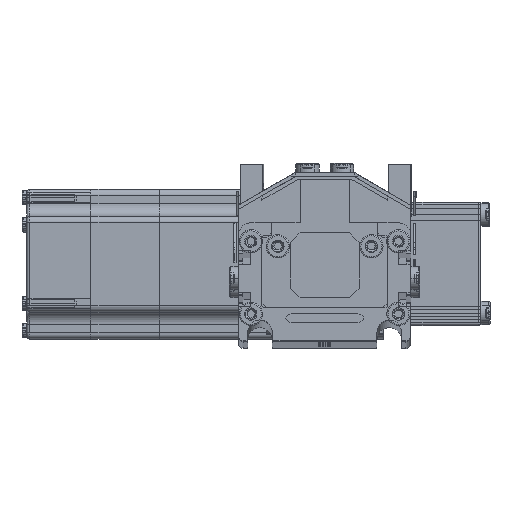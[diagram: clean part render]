
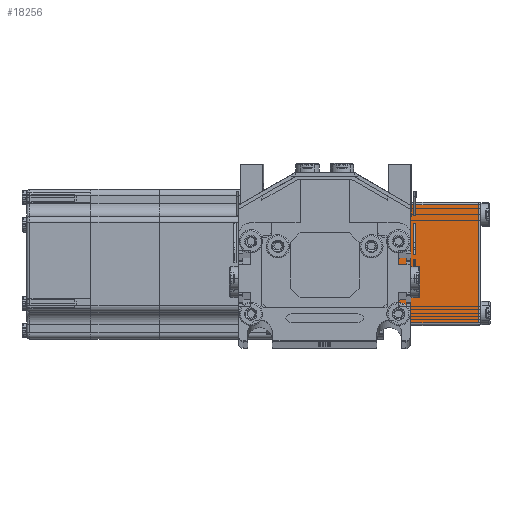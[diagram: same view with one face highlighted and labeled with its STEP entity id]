
A CAD part, top view. The second image highlights one B-rep face of the part: STEP entity #18256.
In plain terms, the highlighted planar face has unit normal (0, 0, 1) as drawn and (-1, 0, 0) by its records, which use the part's own axes.
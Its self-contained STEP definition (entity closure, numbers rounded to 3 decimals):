
#18194 = VERTEX_POINT ( 'NONE', #71690 ) ;
#18196 = EDGE_CURVE ( 'NONE', #18197, #18194, #71669, .T. ) ;
#18197 = VERTEX_POINT ( 'NONE', #71640 ) ;
#18254 = ORIENTED_EDGE ( 'NONE', *, *, #18257, .T. ) ;
#18256 = ADVANCED_FACE ( 'NONE', ( #135474 ), #135441, .F. ) ;
#18257 = EDGE_CURVE ( 'NONE', #18194, #18268, #135438, .T. ) ;
#18258 = ORIENTED_EDGE ( 'NONE', *, *, #18261, .T. ) ;
#18259 = EDGE_CURVE ( 'NONE', #18268, #18267, #135435, .T. ) ;
#18260 = ORIENTED_EDGE ( 'NONE', *, *, #18259, .T. ) ;
#18261 = EDGE_CURVE ( 'NONE', #18267, #18197, #135561, .T. ) ;
#18267 = VERTEX_POINT ( 'NONE', #135546 ) ;
#18268 = VERTEX_POINT ( 'NONE', #135524 ) ;
#18270 = ORIENTED_EDGE ( 'NONE', *, *, #18196, .T. ) ;
#18273 = EDGE_LOOP ( 'NONE', ( #18270, #18254, #18260, #18258 ) ) ;
#71631 = DIRECTION ( 'NONE',  ( 0., -1., 0. ) ) ;
#71632 = VECTOR ( 'NONE', #71631, 1000. ) ;
#71633 = CARTESIAN_POINT ( 'NONE',  ( -50., 25., 0. ) ) ;
#71640 = CARTESIAN_POINT ( 'NONE',  ( -50., 24., 0. ) ) ;
#71669 = LINE ( 'NONE', #71633, #71632 ) ;
#71690 = CARTESIAN_POINT ( 'NONE',  ( -50., -24., 0. ) ) ;
#135435 = LINE ( 'NONE', #135570, #135568 ) ;
#135437 = CARTESIAN_POINT ( 'NONE',  ( -50., -24., 39.5 ) ) ;
#135438 = LINE ( 'NONE', #135437, #135573 ) ;
#135441 = PLANE ( 'NONE',  #135460 ) ;
#135460 = AXIS2_PLACEMENT_3D ( 'NONE', #135581, #135580, #135578 ) ;
#135474 = FACE_OUTER_BOUND ( 'NONE', #18273, .T. ) ;
#135524 = CARTESIAN_POINT ( 'NONE',  ( -50., -24., 38.5 ) ) ;
#135546 = CARTESIAN_POINT ( 'NONE',  ( -50., 24., 38.5 ) ) ;
#135555 = DIRECTION ( 'NONE',  ( 0., 0., -1. ) ) ;
#135557 = VECTOR ( 'NONE', #135555, 1000. ) ;
#135559 = CARTESIAN_POINT ( 'NONE',  ( -50., 24., 39.5 ) ) ;
#135561 = LINE ( 'NONE', #135559, #135557 ) ;
#135567 = DIRECTION ( 'NONE',  ( 0., 1., 0. ) ) ;
#135568 = VECTOR ( 'NONE', #135567, 1000. ) ;
#135570 = CARTESIAN_POINT ( 'NONE',  ( -50., 25., 38.5 ) ) ;
#135572 = DIRECTION ( 'NONE',  ( 0., 0., 1. ) ) ;
#135573 = VECTOR ( 'NONE', #135572, 1000. ) ;
#135578 = DIRECTION ( 'NONE',  ( 0., 1., 0. ) ) ;
#135580 = DIRECTION ( 'NONE',  ( 1., 0., 0. ) ) ;
#135581 = CARTESIAN_POINT ( 'NONE',  ( -50., 25., 39.5 ) ) ;
